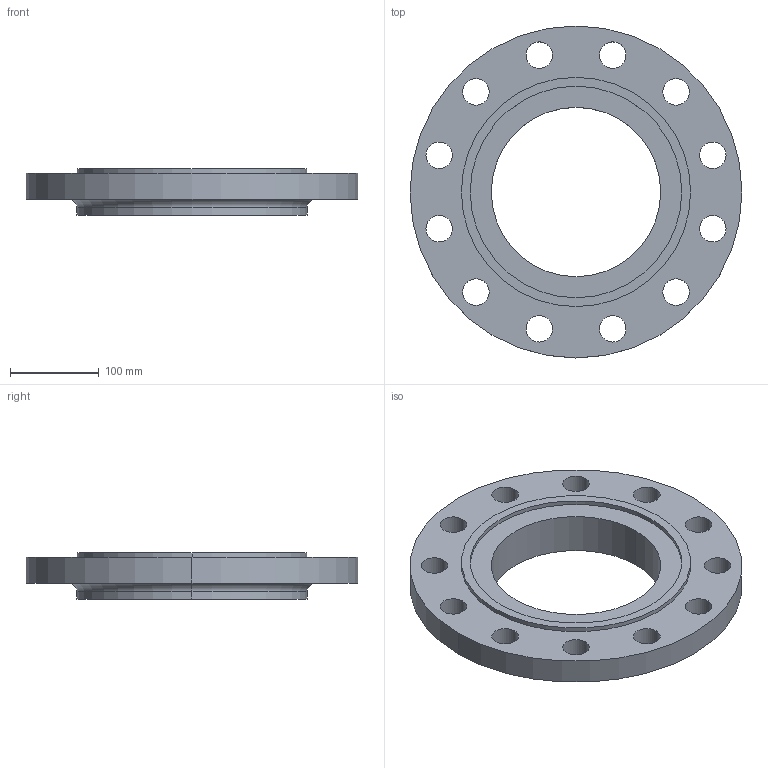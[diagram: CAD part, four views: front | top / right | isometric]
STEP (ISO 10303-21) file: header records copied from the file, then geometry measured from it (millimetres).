
FILE_DESCRIPTION (( 'STEP AP214' ), '1' );
FILE_NAME ('PN40 DN200 Type 13 - Type C Face.STEP', '2019-01-05T02:10:04', ( '' ), ( '' ), 'SwSTEP 2.0', 'SolidWorks 2019', '' );
FILE_SCHEMA (( 'AUTOMOTIVE_DESIGN' ));
Length unit declared in the file: millimetre
Products named in the file (1): PN40 DN200 Type 13 - Type C Face
Bounding box: 375 x 375 x 52 mm (x, y, z)
Volume: 2618132.9 mm3; surface area: 260699.4 mm2
Topology: 1 solids, 1 shells, 41 faces, 106 edges, 70 vertices
Faces by surface type: cylinder 34, plane 5, torus 2
Entity records: 1382 total; most frequent: DIRECTION 262, CARTESIAN_POINT 218, ORIENTED_EDGE 212, AXIS2_PLACEMENT_3D 114, EDGE_CURVE 106, CIRCLE 72, VERTEX_POINT 70, EDGE_LOOP 70
